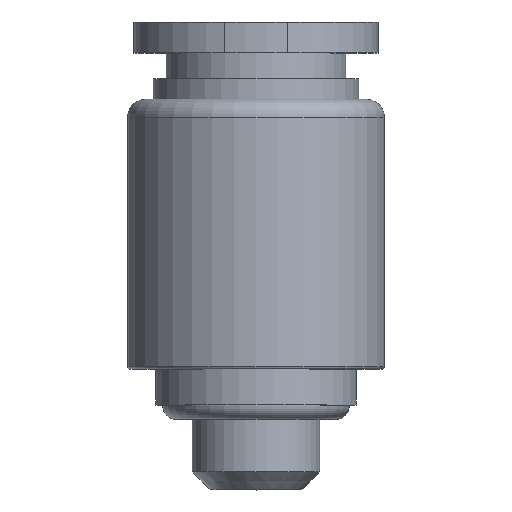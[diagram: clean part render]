
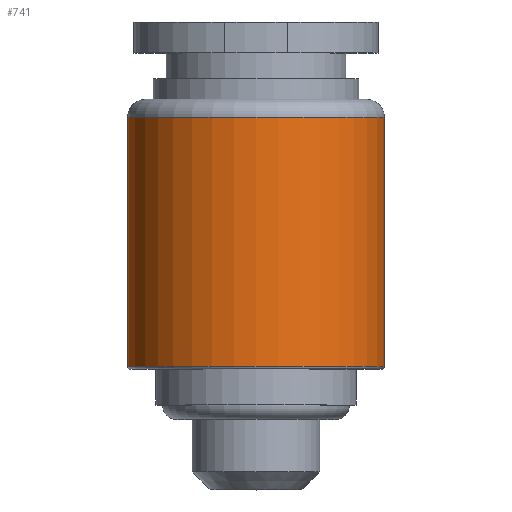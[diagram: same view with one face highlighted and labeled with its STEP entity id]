
A CAD part, top view. The second image highlights one B-rep face of the part: STEP entity #741.
In plain terms, the highlighted cylindrical face has radius 5 mm (diameter 10 mm), a full revolution.
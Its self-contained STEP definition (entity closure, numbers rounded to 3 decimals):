
#68=FACE_OUTER_BOUND('',#113,.T.);
#113=EDGE_LOOP('',(#558,#559,#560,#561,#562,#563,#564,#565));
#164=LINE('',#1251,#206);
#206=VECTOR('',#1006,5.);
#256=CIRCLE('',#827,5.);
#260=CIRCLE('',#831,5.);
#261=CIRCLE('',#832,5.);
#262=CIRCLE('',#834,5.);
#263=CIRCLE('',#835,5.);
#264=CIRCLE('',#836,5.);
#325=VERTEX_POINT('',#1233);
#326=VERTEX_POINT('',#1234);
#329=VERTEX_POINT('',#1241);
#330=VERTEX_POINT('',#1245);
#331=VERTEX_POINT('',#1246);
#332=VERTEX_POINT('',#1248);
#412=EDGE_CURVE('',#325,#326,#256,.T.);
#416=EDGE_CURVE('',#326,#329,#260,.T.);
#417=EDGE_CURVE('',#329,#325,#261,.T.);
#418=EDGE_CURVE('',#330,#331,#262,.T.);
#419=EDGE_CURVE('',#332,#330,#263,.T.);
#420=EDGE_CURVE('',#331,#332,#264,.T.);
#421=EDGE_CURVE('',#331,#329,#164,.T.);
#558=ORIENTED_EDGE('',*,*,#418,.F.);
#559=ORIENTED_EDGE('',*,*,#419,.F.);
#560=ORIENTED_EDGE('',*,*,#420,.F.);
#561=ORIENTED_EDGE('',*,*,#421,.T.);
#562=ORIENTED_EDGE('',*,*,#416,.F.);
#563=ORIENTED_EDGE('',*,*,#412,.F.);
#564=ORIENTED_EDGE('',*,*,#417,.F.);
#565=ORIENTED_EDGE('',*,*,#421,.F.);
#705=CYLINDRICAL_SURFACE('',#833,5.);
#741=ADVANCED_FACE('',(#68),#705,.T.);
#827=AXIS2_PLACEMENT_3D('',#1235,#986,#987);
#831=AXIS2_PLACEMENT_3D('',#1242,#994,#995);
#832=AXIS2_PLACEMENT_3D('',#1243,#996,#997);
#833=AXIS2_PLACEMENT_3D('',#1244,#998,#999);
#834=AXIS2_PLACEMENT_3D('',#1247,#1000,#1001);
#835=AXIS2_PLACEMENT_3D('',#1249,#1002,#1003);
#836=AXIS2_PLACEMENT_3D('',#1250,#1004,#1005);
#986=DIRECTION('center_axis',(0.,-1.,0.));
#987=DIRECTION('ref_axis',(1.,0.,0.));
#994=DIRECTION('center_axis',(0.,-1.,0.));
#995=DIRECTION('ref_axis',(1.,0.,0.));
#996=DIRECTION('center_axis',(0.,-1.,0.));
#997=DIRECTION('ref_axis',(1.,0.,0.));
#998=DIRECTION('center_axis',(0.,1.,0.));
#999=DIRECTION('ref_axis',(-1.,0.,0.));
#1000=DIRECTION('center_axis',(0.,1.,0.));
#1001=DIRECTION('ref_axis',(1.,0.,0.));
#1002=DIRECTION('center_axis',(0.,1.,0.));
#1003=DIRECTION('ref_axis',(1.,0.,0.));
#1004=DIRECTION('center_axis',(0.,1.,0.));
#1005=DIRECTION('ref_axis',(1.,0.,0.));
#1006=DIRECTION('',(0.,-1.,0.));
#1233=CARTESIAN_POINT('',(-5.,4.8,0.));
#1234=CARTESIAN_POINT('',(0.,4.8,-5.));
#1235=CARTESIAN_POINT('Origin',(0.,4.8,0.));
#1241=CARTESIAN_POINT('',(5.,4.8,0.));
#1242=CARTESIAN_POINT('Origin',(0.,4.8,0.));
#1243=CARTESIAN_POINT('Origin',(0.,4.8,0.));
#1244=CARTESIAN_POINT('Origin',(0.,9.95,0.));
#1245=CARTESIAN_POINT('',(-5.,14.5,0.));
#1246=CARTESIAN_POINT('',(5.,14.5,0.));
#1247=CARTESIAN_POINT('Origin',(0.,14.5,0.));
#1248=CARTESIAN_POINT('',(0.,14.5,-5.));
#1249=CARTESIAN_POINT('Origin',(0.,14.5,0.));
#1250=CARTESIAN_POINT('Origin',(0.,14.5,0.));
#1251=CARTESIAN_POINT('',(5.,9.95,0.));
